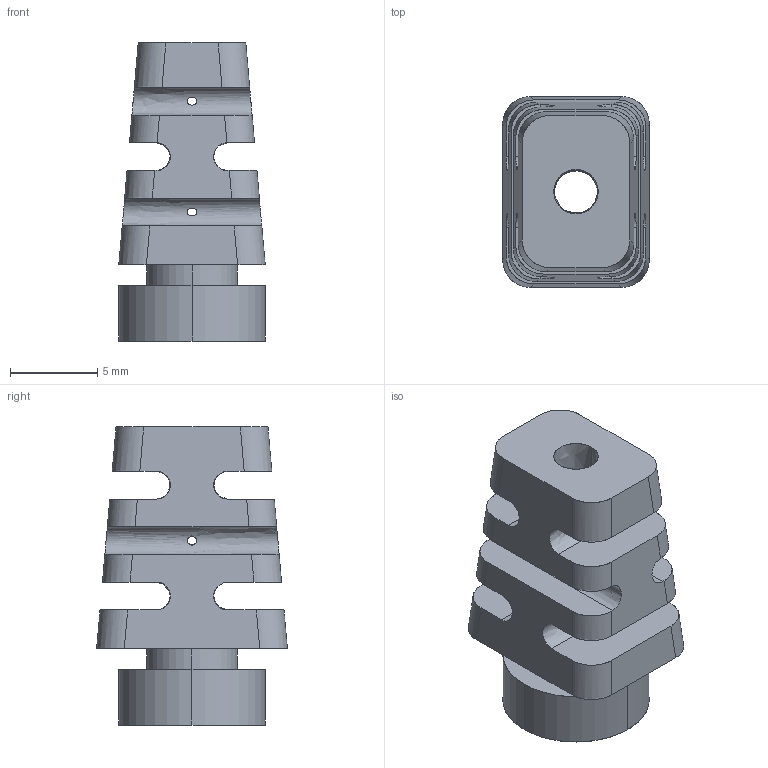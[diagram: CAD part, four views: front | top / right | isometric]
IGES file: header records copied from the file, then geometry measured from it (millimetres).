
Start section: SolidWorks IGES FILE using analytic representation for surfaces
Global section: file name: Y:\ISCDATABASE\Grommet\cache\GRDEFAU06042003184914.igs; native system: SolidWorks 2003 by SolidWorks Corporation; preprocessor: Version 5.3; author: partstream; date: 030604.185724; units: inch
Bounding box: 8.38 x 10.92 x 17.07 mm (x, y, z)
Surface area: 1055.2 mm2 (no closed solid volume)
Topology: 0 solids, 0 shells, 58 faces, 1156 edges, 1156 vertices
Faces by surface type: revolution 32, bspline 26
